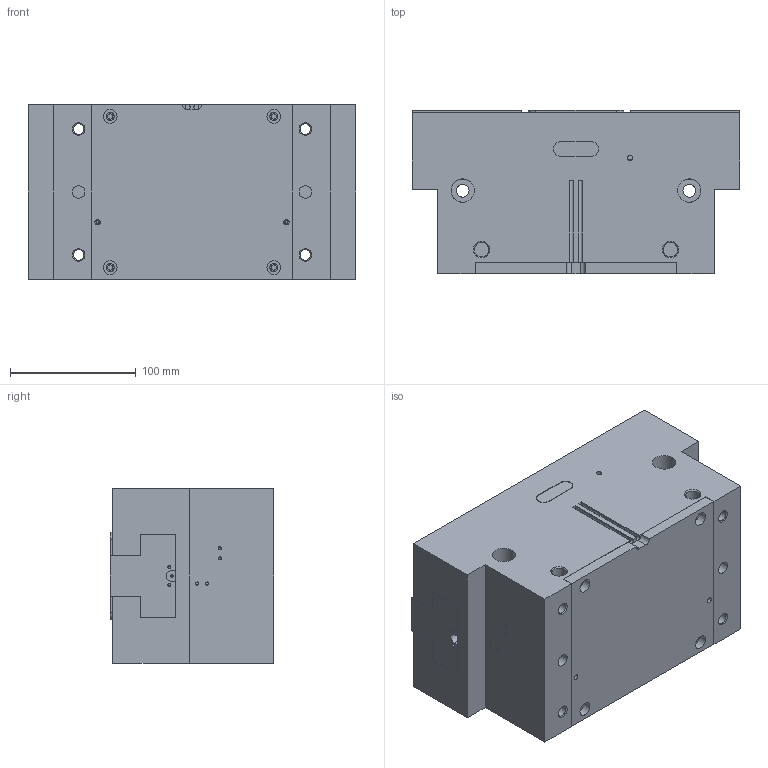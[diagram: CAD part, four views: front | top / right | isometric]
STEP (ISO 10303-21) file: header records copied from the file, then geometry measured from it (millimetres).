
FILE_DESCRIPTION( ( 'STEP AP214' ), '1' );
FILE_NAME( 'C:/Users/ashearer/Desktop/Mindman New CAD/Grippers/MCHS-SD-300_0_.stp', ' ', ( ' ' ), ( ' ' ), 'PSStep 15.0.47', 'PARTsolutions', ' ' );
FILE_SCHEMA( ( 'AUTOMOTIVE_DESIGN { 1 0 10303 214 1 1 1 1 }' ) );
Length unit declared in the file: millimetre
Products named in the file (4): MCHS-SD-300(0); _MCHS-SD-300(dummy_0); _MCHS-SD-300_body; _MCHS-SD-300_finger
Assembly tree (4 placements, depth 2):
  MCHS-SD-300(0)
    _MCHS-SD-300(dummy_0)
    _MCHS-SD-300_body
    _MCHS-SD-300_finger  x2
Bounding box: 260 x 130 x 139 mm (x, y, z)
Volume: 4007114.7 mm3; surface area: 338550.3 mm2
Topology: 3 solids, 3 shells, 360 faces, 836 edges, 541 vertices
Faces by surface type: plane 206, cylinder 96, cone 58
Full cylindrical faces by diameter (mm): 2.013 x14, 2.459 x2, 2.85 x4, 3.8 x4, 4.134 x6, 4.2 x2, 6.4 x4, 8.376 x4, 10 x4, 10.106 x10, 11 x4, 11.445 x4, 16.5 x6, 18 x6, 18.5 x2
Entity records: 10392 total; most frequent: CARTESIAN_POINT 1947, DIRECTION 1296, ORIENTED_EDGE 1030, EDGE_CURVE 515, AXIS2_PLACEMENT_3D 501, EDGE_LOOP 484, VERTEX_POINT 403, FACE_OUTER_BOUND 350
